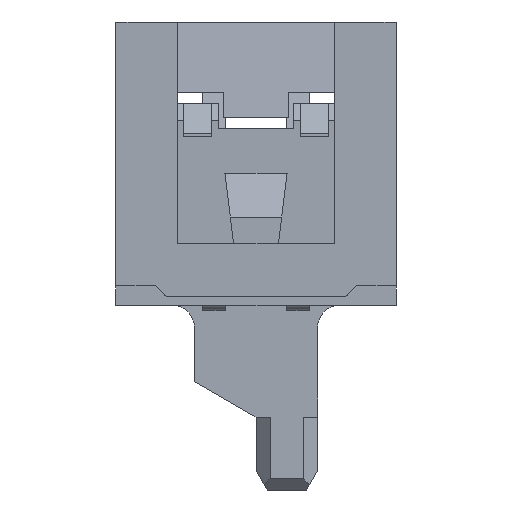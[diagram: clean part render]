
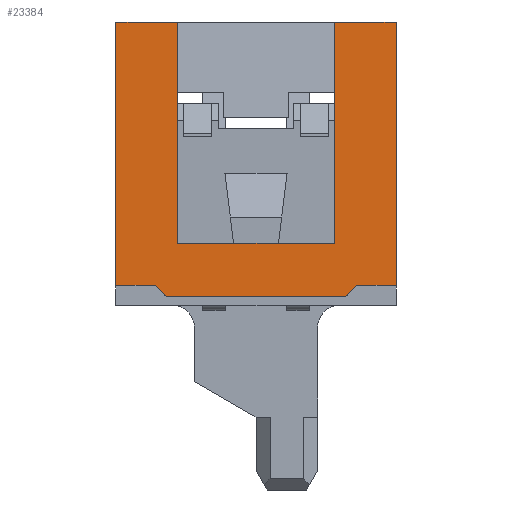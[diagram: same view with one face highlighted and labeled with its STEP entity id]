
A CAD part, left-side view. The second image highlights one B-rep face of the part: STEP entity #23384.
In plain terms, the highlighted planar face has unit normal (-1, 0, 0).
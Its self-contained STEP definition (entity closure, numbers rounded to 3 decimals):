
#1525=DIRECTION('',(0.,0.,1.));
#1526=VECTOR('',#1525,4.7);
#1527=CARTESIAN_POINT('',(-14.39,-2.5,-2.8));
#1528=LINE('',#1527,#1526);
#1930=DIRECTION('',(0.,1.,0.));
#1931=VECTOR('',#1930,1.1);
#1932=CARTESIAN_POINT('',(-14.39,-2.5,1.9));
#1933=LINE('',#1932,#1931);
#1950=DIRECTION('',(0.,1.,0.));
#1951=VECTOR('',#1950,1.1);
#1952=CARTESIAN_POINT('',(-14.39,1.4,1.9));
#1953=LINE('',#1952,#1951);
#5076=DIRECTION('',(0.,0.,-1.));
#5077=VECTOR('',#5076,4.7);
#5078=CARTESIAN_POINT('',(-14.39,2.5,1.9));
#5079=LINE('',#5078,#5077);
#5282=DIRECTION('',(0.,0.,1.));
#5283=VECTOR('',#5282,3.95);
#5284=CARTESIAN_POINT('',(-14.39,1.4,-2.05));
#5285=LINE('',#5284,#5283);
#5306=DIRECTION('',(0.,0.,-1.));
#5307=VECTOR('',#5306,3.95);
#5308=CARTESIAN_POINT('',(-14.39,-1.4,1.9));
#5309=LINE('',#5308,#5307);
#5322=DIRECTION('',(0.,-1.,0.));
#5323=VECTOR('',#5322,0.7);
#5324=CARTESIAN_POINT('',(-14.39,-1.8,-2.8));
#5325=LINE('',#5324,#5323);
#5326=DIRECTION('',(0.,-0.707,0.707));
#5327=VECTOR('',#5326,0.283);
#5328=CARTESIAN_POINT('',(-14.39,-1.6,-3.));
#5329=LINE('',#5328,#5327);
#5330=DIRECTION('',(0.,-1.,0.));
#5331=VECTOR('',#5330,3.2);
#5332=CARTESIAN_POINT('',(-14.39,1.6,-3.));
#5333=LINE('',#5332,#5331);
#5334=DIRECTION('',(0.,-0.707,-0.707));
#5335=VECTOR('',#5334,0.283);
#5336=CARTESIAN_POINT('',(-14.39,1.8,-2.8));
#5337=LINE('',#5336,#5335);
#5338=DIRECTION('',(0.,-1.,0.));
#5339=VECTOR('',#5338,0.7);
#5340=CARTESIAN_POINT('',(-14.39,2.5,-2.8));
#5341=LINE('',#5340,#5339);
#5342=DIRECTION('',(0.,1.,0.));
#5343=VECTOR('',#5342,2.8);
#5344=CARTESIAN_POINT('',(-14.39,-1.4,-2.05));
#5345=LINE('',#5344,#5343);
#14292=CARTESIAN_POINT('',(-14.39,-2.5,1.9));
#14294=VERTEX_POINT('',#14292);
#14296=CARTESIAN_POINT('',(-14.39,2.5,1.9));
#14298=VERTEX_POINT('',#14296);
#14300=CARTESIAN_POINT('',(-14.39,-1.4,-2.05));
#14301=CARTESIAN_POINT('',(-14.39,1.4,-2.05));
#14302=VERTEX_POINT('',#14300);
#14303=VERTEX_POINT('',#14301);
#14304=CARTESIAN_POINT('',(-14.39,2.5,-2.8));
#14305=CARTESIAN_POINT('',(-14.39,1.8,-2.8));
#14306=VERTEX_POINT('',#14304);
#14307=VERTEX_POINT('',#14305);
#14308=CARTESIAN_POINT('',(-14.39,1.6,-3.));
#14309=VERTEX_POINT('',#14308);
#14310=CARTESIAN_POINT('',(-14.39,-1.6,-3.));
#14311=VERTEX_POINT('',#14310);
#14312=CARTESIAN_POINT('',(-14.39,-1.8,-2.8));
#14313=VERTEX_POINT('',#14312);
#14314=CARTESIAN_POINT('',(-14.39,-2.5,-2.8));
#14315=VERTEX_POINT('',#14314);
#14449=CARTESIAN_POINT('',(-14.39,-1.4,1.9));
#14450=VERTEX_POINT('',#14449);
#14451=CARTESIAN_POINT('',(-14.39,1.4,1.9));
#14452=VERTEX_POINT('',#14451);
#23360=CARTESIAN_POINT('',(-14.39,-2.5,0.65));
#23361=DIRECTION('',(-1.,0.,0.));
#23362=DIRECTION('',(0.,0.,1.));
#23363=AXIS2_PLACEMENT_3D('',#23360,#23361,#23362);
#23364=PLANE('',#23363);
#23365=ORIENTED_EDGE('',*,*,#23341,.F.);
#23366=ORIENTED_EDGE('',*,*,#19512,.F.);
#23367=ORIENTED_EDGE('',*,*,#19419,.F.);
#23369=ORIENTED_EDGE('',*,*,#23368,.F.);
#23371=ORIENTED_EDGE('',*,*,#23370,.F.);
#23373=ORIENTED_EDGE('',*,*,#23372,.F.);
#23375=ORIENTED_EDGE('',*,*,#23374,.F.);
#23377=ORIENTED_EDGE('',*,*,#23376,.F.);
#23378=ORIENTED_EDGE('',*,*,#23026,.F.);
#23379=ORIENTED_EDGE('',*,*,#19526,.F.);
#23380=ORIENTED_EDGE('',*,*,#23294,.F.);
#23381=ORIENTED_EDGE('',*,*,#23321,.F.);
#23382=EDGE_LOOP('',(#23365,#23366,#23367,#23369,#23371,#23373,#23375,#23377,
#23378,#23379,#23380,#23381));
#23383=FACE_OUTER_BOUND('',#23382,.F.);
#19419=EDGE_CURVE('',#14315,#14294,#1528,.T.);
#19512=EDGE_CURVE('',#14294,#14450,#1933,.T.);
#19526=EDGE_CURVE('',#14452,#14298,#1953,.T.);
#23026=EDGE_CURVE('',#14298,#14306,#5079,.T.);
#23294=EDGE_CURVE('',#14303,#14452,#5285,.T.);
#23321=EDGE_CURVE('',#14302,#14303,#5345,.T.);
#23341=EDGE_CURVE('',#14450,#14302,#5309,.T.);
#23368=EDGE_CURVE('',#14313,#14315,#5325,.T.);
#23370=EDGE_CURVE('',#14311,#14313,#5329,.T.);
#23372=EDGE_CURVE('',#14309,#14311,#5333,.T.);
#23374=EDGE_CURVE('',#14307,#14309,#5337,.T.);
#23376=EDGE_CURVE('',#14306,#14307,#5341,.T.);
#23384=ADVANCED_FACE('',(#23383),#23364,.T.);
